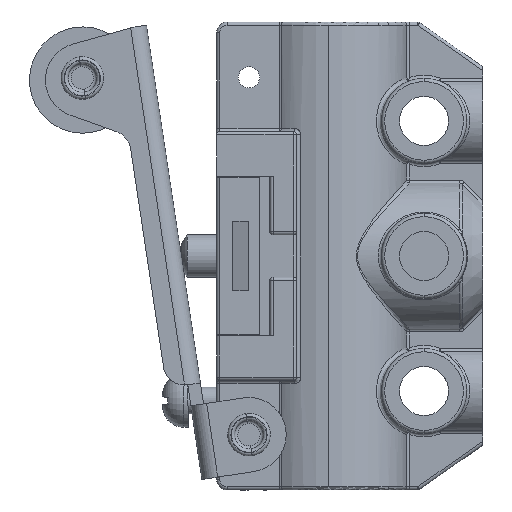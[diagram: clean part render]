
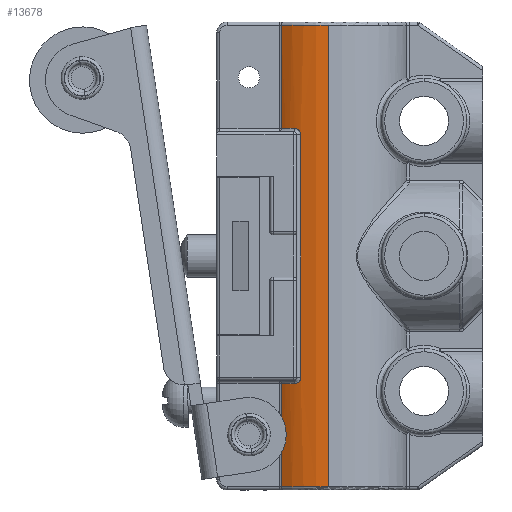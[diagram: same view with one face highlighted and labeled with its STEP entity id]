
A CAD part, left-side view. The second image highlights one B-rep face of the part: STEP entity #13678.
In plain terms, the highlighted cylindrical face has radius 7.5 mm (diameter 15 mm), a partial arc.
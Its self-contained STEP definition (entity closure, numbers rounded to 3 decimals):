
#84 = CARTESIAN_POINT ( 'NONE',  ( -6.864, 3.026, 12. ) ) ;
#318 = EDGE_CURVE ( 'NONE', #7694, #7239, #17554, .T. ) ;
#389 = ORIENTED_EDGE ( 'NONE', *, *, #13860, .T. ) ;
#406 = VECTOR ( 'NONE', #15671, 1000. ) ;
#445 = EDGE_CURVE ( 'NONE', #1532, #16871, #1170, .T. ) ;
#713 = CIRCLE ( 'NONE', #17154, 7.5 ) ;
#835 = VECTOR ( 'NONE', #9404, 1000. ) ;
#1128 = CARTESIAN_POINT ( 'NONE',  ( -7.5, 0., -21.7 ) ) ;
#1170 = LINE ( 'NONE', #12208, #835 ) ;
#1193 = EDGE_CURVE ( 'NONE', #1532, #2432, #11078, .T. ) ;
#1255 = DIRECTION ( 'NONE',  ( 0., 0., 1. ) ) ;
#1532 = VERTEX_POINT ( 'NONE', #3843 ) ;
#1554 = CARTESIAN_POINT ( 'NONE',  ( -6.058, 4.422, 21.7 ) ) ;
#2243 = CARTESIAN_POINT ( 'NONE',  ( -6.796, 3.173, -12. ) ) ;
#2343 = ORIENTED_EDGE ( 'NONE', *, *, #445, .T. ) ;
#2432 = VERTEX_POINT ( 'NONE', #6858 ) ;
#3117 = CARTESIAN_POINT ( 'NONE',  ( 0., 0., -21.7 ) ) ;
#3458 = DIRECTION ( 'NONE',  ( 1., 0., 0. ) ) ;
#3495 = DIRECTION ( 'NONE',  ( 0., 0., -1. ) ) ;
#3628 = B_SPLINE_CURVE_WITH_KNOTS ( 'NONE', 3,
 ( #2243, #4942, #5127, #10475, #14621, #14527 ),
 .UNSPECIFIED., .F., .F.,
 ( 4, 2, 4 ),
 ( 0., 0., 0.001 ),
 .UNSPECIFIED. ) ;
#3816 = VERTEX_POINT ( 'NONE', #7568 ) ;
#3843 = CARTESIAN_POINT ( 'NONE',  ( -7.036, 2.596, 11.4 ) ) ;
#3856 = CARTESIAN_POINT ( 'NONE',  ( 0., 0., 22. ) ) ;
#4148 = EDGE_CURVE ( 'NONE', #7239, #12506, #14160, .T. ) ;
#4523 = VERTEX_POINT ( 'NONE', #13838 ) ;
#4942 = CARTESIAN_POINT ( 'NONE',  ( -6.864, 3.026, -12. ) ) ;
#5127 = CARTESIAN_POINT ( 'NONE',  ( -6.927, 2.879, -11.939 ) ) ;
#5169 = EDGE_LOOP ( 'NONE', ( #14605, #12780, #389, #17398, #15844, #2343, #12925, #7184, #10739, #9795 ) ) ;
#5536 = CARTESIAN_POINT ( 'NONE',  ( -7.036, 2.596, -11.4 ) ) ;
#6858 = CARTESIAN_POINT ( 'NONE',  ( -6.796, 3.173, 12. ) ) ;
#6908 = CARTESIAN_POINT ( 'NONE',  ( -6.058, 4.422, -21.7 ) ) ;
#6945 = CIRCLE ( 'NONE', #16466, 7.5 ) ;
#7184 = ORIENTED_EDGE ( 'NONE', *, *, #318, .T. ) ;
#7239 = VERTEX_POINT ( 'NONE', #9035 ) ;
#7464 = CARTESIAN_POINT ( 'NONE',  ( -6.058, 4.422, 22. ) ) ;
#7568 = CARTESIAN_POINT ( 'NONE',  ( -7.5, 0., 21.7 ) ) ;
#7694 = VERTEX_POINT ( 'NONE', #11258 ) ;
#7755 = AXIS2_PLACEMENT_3D ( 'NONE', #13778, #10894, #9543 ) ;
#8326 = VECTOR ( 'NONE', #14240, 1000. ) ;
#8605 = AXIS2_PLACEMENT_3D ( 'NONE', #3856, #11829, #14870 ) ;
#9035 = CARTESIAN_POINT ( 'NONE',  ( -6.058, 4.422, -12. ) ) ;
#9113 = AXIS2_PLACEMENT_3D ( 'NONE', #11676, #15461, #3458 ) ;
#9328 = VERTEX_POINT ( 'NONE', #1554 ) ;
#9404 = DIRECTION ( 'NONE',  ( 0., 0., -1. ) ) ;
#9543 = DIRECTION ( 'NONE',  ( 0., -1., 0. ) ) ;
#9588 = DIRECTION ( 'NONE',  ( 0., 1., 0. ) ) ;
#9795 = ORIENTED_EDGE ( 'NONE', *, *, #17433, .T. ) ;
#9840 = CARTESIAN_POINT ( 'NONE',  ( -7.036, 2.596, 11.4 ) ) ;
#10475 = CARTESIAN_POINT ( 'NONE',  ( -7.013, 2.662, -11.72 ) ) ;
#10739 = ORIENTED_EDGE ( 'NONE', *, *, #4148, .T. ) ;
#10894 = DIRECTION ( 'NONE',  ( 0., 0., -1. ) ) ;
#10936 = CARTESIAN_POINT ( 'NONE',  ( -7.013, 2.662, 11.72 ) ) ;
#11040 = EDGE_CURVE ( 'NONE', #4523, #2432, #6945, .T. ) ;
#11078 = B_SPLINE_CURVE_WITH_KNOTS ( 'NONE', 3,
 ( #9840, #13726, #10936, #15253, #84, #13993 ),
 .UNSPECIFIED., .F., .F.,
 ( 4, 2, 4 ),
 ( 0., 0., 0.001 ),
 .UNSPECIFIED. ) ;
#11116 = CARTESIAN_POINT ( 'NONE',  ( 0., 0., 12. ) ) ;
#11258 = CARTESIAN_POINT ( 'NONE',  ( -6.796, 3.173, -12. ) ) ;
#11532 = CARTESIAN_POINT ( 'NONE',  ( -7.5, 0., 22. ) ) ;
#11676 = CARTESIAN_POINT ( 'NONE',  ( 0., 0., 21.7 ) ) ;
#11829 = DIRECTION ( 'NONE',  ( 0., 0., -1. ) ) ;
#11919 = CYLINDRICAL_SURFACE ( 'NONE', #8605, 7.5 ) ;
#12208 = CARTESIAN_POINT ( 'NONE',  ( -7.036, 2.596, 22. ) ) ;
#12506 = VERTEX_POINT ( 'NONE', #6908 ) ;
#12780 = ORIENTED_EDGE ( 'NONE', *, *, #15499, .T. ) ;
#12830 = VECTOR ( 'NONE', #3495, 1000. ) ;
#12925 = ORIENTED_EDGE ( 'NONE', *, *, #15878, .F. ) ;
#13678 = ADVANCED_FACE ( 'NONE', ( #16230 ), #11919, .T. ) ;
#13726 = CARTESIAN_POINT ( 'NONE',  ( -7.036, 2.596, 11.562 ) ) ;
#13778 = CARTESIAN_POINT ( 'NONE',  ( 0., 0., -12. ) ) ;
#13838 = CARTESIAN_POINT ( 'NONE',  ( -6.058, 4.422, 12. ) ) ;
#13860 = EDGE_CURVE ( 'NONE', #9328, #4523, #15770, .T. ) ;
#13993 = CARTESIAN_POINT ( 'NONE',  ( -6.796, 3.173, 12. ) ) ;
#14160 = LINE ( 'NONE', #16950, #12830 ) ;
#14236 = DIRECTION ( 'NONE',  ( 0., 0., 1. ) ) ;
#14240 = DIRECTION ( 'NONE',  ( 0., 0., -1. ) ) ;
#14329 = DIRECTION ( 'NONE',  ( 1., 0., 0. ) ) ;
#14527 = CARTESIAN_POINT ( 'NONE',  ( -7.036, 2.596, -11.4 ) ) ;
#14605 = ORIENTED_EDGE ( 'NONE', *, *, #16553, .F. ) ;
#14621 = CARTESIAN_POINT ( 'NONE',  ( -7.036, 2.596, -11.562 ) ) ;
#14863 = CIRCLE ( 'NONE', #9113, 7.5 ) ;
#14870 = DIRECTION ( 'NONE',  ( -1., 0., 0. ) ) ;
#15253 = CARTESIAN_POINT ( 'NONE',  ( -6.926, 2.88, 11.94 ) ) ;
#15461 = DIRECTION ( 'NONE',  ( 0., 0., -1. ) ) ;
#15499 = EDGE_CURVE ( 'NONE', #3816, #9328, #14863, .T. ) ;
#15671 = DIRECTION ( 'NONE',  ( 0., 0., -1. ) ) ;
#15770 = LINE ( 'NONE', #7464, #8326 ) ;
#15844 = ORIENTED_EDGE ( 'NONE', *, *, #1193, .F. ) ;
#15878 = EDGE_CURVE ( 'NONE', #7694, #16871, #3628, .T. ) ;
#16230 = FACE_OUTER_BOUND ( 'NONE', #5169, .T. ) ;
#16466 = AXIS2_PLACEMENT_3D ( 'NONE', #11116, #1255, #9588 ) ;
#16468 = VERTEX_POINT ( 'NONE', #1128 ) ;
#16553 = EDGE_CURVE ( 'NONE', #3816, #16468, #16941, .T. ) ;
#16871 = VERTEX_POINT ( 'NONE', #5536 ) ;
#16941 = LINE ( 'NONE', #11532, #406 ) ;
#16950 = CARTESIAN_POINT ( 'NONE',  ( -6.058, 4.422, 22. ) ) ;
#17154 = AXIS2_PLACEMENT_3D ( 'NONE', #3117, #14236, #14329 ) ;
#17398 = ORIENTED_EDGE ( 'NONE', *, *, #11040, .T. ) ;
#17433 = EDGE_CURVE ( 'NONE', #12506, #16468, #713, .T. ) ;
#17554 = CIRCLE ( 'NONE', #7755, 7.5 ) ;
